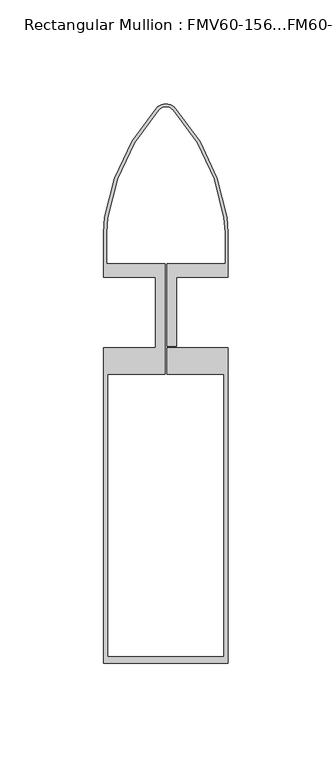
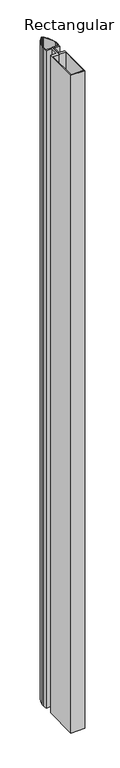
"""IFC4 building model written with IfcOpenShell, lengths in millimetres: member geometry, Rectangular Mullion : FMV60-156...FM60-80."""

from ifc_helpers import new_model, si_unit, frame, origin, place, context, project, spatial, polyline, circle_curve, source, transform, mapped, element, save
from ifc_brep_helpers import plane_surface, cylinder_surface, revolved_surface, advanced_brep


def rectangular_mullion_fmv60_156_fm60_80_34412146(model_context):
    return source(origin(), model_context, "Body", "AdvancedBrep", [
        advanced_brep(
        [(28.0754927, 45.6327241, 0.0), (28.6, 38.5118393, 0.0), (28.6000412, 23.4439081, 0.0), (0.5, 23.4439081, 0.0), (0.5, -16.2, 0.0), (5.0004903, -16.2, 0.0), (5.0004903, 17.0, 0.0), (30.0, 17.0, 0.0), (30.0, 38.5118393, 0.0), (29.4612692, 45.8318697, 0.0), (4.7233463, 98.2488206, 0.0), (0.0, 100.5488206, 0.0), (-4.7233463, 98.2488206, 0.0), (-29.4612692, 45.8318697, 0.0), (-30.0, 38.5118393, 0.0), (-30.0, 17.0, 0.0), (-4.9995097, 17.0, 0.0), (-4.9995097, -17.0, 0.0), (-30.0, -17.0, 0.0), (-30.0, -168.7245121, 0.0), (30.0, -168.7245121, 0.0), (30.0, -17.0, 0.0), (0.5, -17.0, 0.0), (0.5, -29.7200343, 0.0), (28.0, -29.7200343, 0.0), (28.0, -165.7245121, 0.0), (-28.0, -165.7245121, 0.0), (-28.0, -29.7200343, 0.0), (-0.5, -29.7200343, 0.0), (-0.5, 23.4439081, 0.0), (-28.6, 23.4439081, 0.0), (-28.6, 38.5118393, 0.0), (-28.0754927, 45.6327241, 0.0), (-3.6212321, 97.3854872, 0.0), (0.0, 99.1488206, 0.0), (3.6212321, 97.3854872, 0.0), (28.0763537, 45.6269089, -3000.0), (3.6212321, 97.3854872, -3000.0), (0.0, 99.1488206, -3000.0), (-3.6212321, 97.3854872, -3000.0), (-28.0763537, 45.6269089, -3000.0), (-28.6, 38.5118393, -3000.0), (-28.6, 23.4439081, -3000.0), (-0.5, 23.4439081, -3000.0), (-0.5, -29.7200343, -3000.0), (-28.0, -29.7200343, -3000.0), (-28.0, -165.7245121, -3000.0), (28.0, -165.7245121, -3000.0), (28.0, -29.7200343, -3000.0), (0.5, -29.7200343, -3000.0), (0.5, -17.0, -3000.0), (30.0, -17.0, -3000.0), (30.0, -168.7245121, -3000.0), (-30.0, -168.7245121, -3000.0), (-30.0, -17.0, -3000.0), (-4.9995097, -17.0, -3000.0), (-4.9995097, 17.0, -3000.0), (-30.0, 17.0, -3000.0), (-30.0, 38.5118393, -3000.0), (-29.4612692, 45.8318697, -3000.0), (-4.7233463, 98.2488206, -3000.0), (0.0, 100.5488206, -3000.0), (4.7233463, 98.2488206, -3000.0), (29.4612692, 45.8318697, -3000.0), (30.0, 38.5118393, -3000.0), (30.0, 17.0, -3000.0), (5.0004903, 17.0, -3000.0), (5.0004903, -16.2, -3000.0), (0.5, -16.2, -3000.0), (0.5, 23.4439081, -3000.0), (28.6000412, 23.4439081, -3000.0), (28.6000412, 38.5118393, -3000.0)],
        [
            (0, 1, circle_curve(frame((-20.0, 38.5118393, 0.0), z_axis=(0.0, 0.0, -1.0), x_axis=(1.0, 0.0, 0.0)), 48.6)),
            (1, 2),
            (2, 3),
            (3, 4),
            (4, 5),
            (5, 6),
            (6, 7),
            (7, 8),
            (8, 9, circle_curve(frame((-20.0, 38.5118393, 0.0), z_axis=(0.0, 0.0, 1.0), x_axis=(0.989225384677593, 0.14640060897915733, 0.0)), 50.0)),
            (9, 10, circle_curve(frame((-69.4612692, 31.1918088, 0.0), z_axis=(0.0, 0.0, 1.0), x_axis=(0.7418461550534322, 0.6705701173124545, 0.0)), 100.0)),
            (10, 11, circle_curve(frame((0.0, 94.5488206, 0.0), z_axis=(0.0, 0.0, 1.0), x_axis=(2.182106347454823e-12, 1.0, 0.0)), 6.0)),
            (11, 12, circle_curve(frame((0.0, 94.5488206, 0.0), z_axis=(0.0, 0.0, 1.0), x_axis=(-0.787224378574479, 0.6166666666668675, 0.0)), 6.0)),
            (12, 13, circle_curve(frame((69.4612692, 31.1918088, 0.0), z_axis=(0.0, 0.0, 1.0), x_axis=(-0.9892253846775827, 0.14640060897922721, 0.0)), 100.0)),
            (13, 14, circle_curve(frame((20.0, 38.5118393, 0.0), z_axis=(0.0, 0.0, 1.0), x_axis=(-1.0, 0.0, 0.0)), 50.0)),
            (14, 15),
            (15, 16),
            (16, 17),
            (17, 18),
            (18, 19),
            (19, 20),
            (20, 21),
            (21, 22),
            (22, 23),
            (23, 24),
            (24, 25),
            (25, 26),
            (26, 27),
            (27, 28),
            (28, 29),
            (29, 30),
            (30, 31),
            (31, 32, circle_curve(frame((20.0, 38.5118393, 0.0), z_axis=(0.0, 0.0, -1.0), x_axis=(-0.9892253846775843, 0.14640060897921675, 0.0)), 48.6)),
            (32, 33, circle_curve(frame((69.5008187, 31.1798368, 0.0), z_axis=(0.0, 0.0, -1.0), x_axis=(-0.7412956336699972, 0.6711786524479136, 0.0)), 98.6408763)),
            (33, 34, circle_curve(frame((0.0, 94.5488206, 0.0), z_axis=(0.0, 0.0, -1.0), x_axis=(0.0, 1.0, 0.0)), 4.6)),
            (34, 35, circle_curve(frame((0.0, 94.5488206, 0.0), z_axis=(0.0, 0.0, -1.0), x_axis=(0.7872243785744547, 0.6166666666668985, 0.0)), 4.6)),
            (35, 0, circle_curve(frame((-69.5008187, 31.1798368, 0.0), z_axis=(0.0, 0.0, -1.0), x_axis=(0.9892163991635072, 0.14646131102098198, 0.0)), 98.6408763)),
            (36, 37, circle_curve(frame((-69.5008187, 31.1798368, -3000.0), z_axis=(0.0, 0.0, 1.0), x_axis=(0.9892163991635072, 0.14646131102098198, 0.0)), 98.6408763)),
            (37, 38, circle_curve(frame((0.0, 94.5488206, -3000.0), z_axis=(0.0, 0.0, 1.0), x_axis=(0.7872243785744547, 0.6166666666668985, 0.0)), 4.6)),
            (38, 39, circle_curve(frame((0.0, 94.5488206, -3000.0), z_axis=(0.0, 0.0, 1.0), x_axis=(0.0, 1.0, 0.0)), 4.6)),
            (39, 40, circle_curve(frame((69.5008187, 31.1798368, -3000.0), z_axis=(0.0, 0.0, 1.0), x_axis=(-0.7412956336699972, 0.6711786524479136, 0.0)), 98.6408763)),
            (40, 41, circle_curve(frame((20.0, 38.5118393, -3000.0), z_axis=(0.0, 0.0, 1.0), x_axis=(-0.9892253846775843, 0.14640060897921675, 0.0)), 48.6)),
            (41, 42),
            (42, 43),
            (43, 44),
            (44, 45),
            (45, 46),
            (46, 47),
            (47, 48),
            (48, 49),
            (49, 50),
            (50, 51),
            (51, 52),
            (52, 53),
            (53, 54),
            (54, 55),
            (55, 56),
            (56, 57),
            (57, 58),
            (58, 59, circle_curve(frame((20.0, 38.5118393, -3000.0), z_axis=(0.0, 0.0, -1.0), x_axis=(-1.0, 0.0, 0.0)), 50.0)),
            (59, 60, circle_curve(frame((69.4612692, 31.1918088, -3000.0), z_axis=(0.0, 0.0, -1.0), x_axis=(-0.9892253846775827, 0.14640060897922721, 0.0)), 100.0)),
            (60, 61, circle_curve(frame((0.0, 94.5488206, -3000.0), z_axis=(0.0, 0.0, -1.0), x_axis=(-0.787224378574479, 0.6166666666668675, 0.0)), 6.0)),
            (61, 62, circle_curve(frame((0.0, 94.5488206, -3000.0), z_axis=(0.0, 0.0, -1.0), x_axis=(2.182106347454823e-12, 1.0, 0.0)), 6.0)),
            (62, 63, circle_curve(frame((-69.4612692, 31.1918088, -3000.0), z_axis=(0.0, 0.0, -1.0), x_axis=(0.7418461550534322, 0.6705701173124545, 0.0)), 100.0)),
            (63, 64, circle_curve(frame((-20.0, 38.5118393, -3000.0), z_axis=(0.0, 0.0, -1.0), x_axis=(0.989225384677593, 0.14640060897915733, 0.0)), 50.0)),
            (64, 65),
            (65, 66),
            (66, 67),
            (67, 68),
            (68, 69),
            (69, 70),
            (70, 71),
            (71, 36, circle_curve(frame((-20.0, 38.5118393, -3000.0), z_axis=(0.0, 0.0, 1.0), x_axis=(1.0, 0.0, 0.0)), 48.6)),
            (0, 36),
            (71, 1),
            (70, 2),
            (69, 3),
            (68, 4),
            (67, 5),
            (66, 6),
            (65, 7),
            (64, 8),
            (63, 9),
            (62, 10),
            (61, 11),
            (60, 12),
            (59, 13),
            (58, 14),
            (57, 15),
            (56, 16),
            (55, 17),
            (54, 18),
            (53, 19),
            (52, 20),
            (51, 21),
            (50, 22),
            (49, 23),
            (48, 24),
            (47, 25),
            (46, 26),
            (45, 27),
            (44, 28),
            (43, 29),
            (42, 30),
            (41, 31),
            (40, 32),
            (39, 33),
            (38, 34),
            (37, 35),
        ],
        [
            plane_surface(frame((0.0, -171.3708289, 0.0), z_axis=(0.0, 0.0, 1.0), x_axis=(-1.0, 0.0, 0.0))),
            plane_surface(frame((0.0, -171.3708289, -3000.0), z_axis=(0.0, 0.0, -1.0), x_axis=(-1.0, 0.0, 0.0))),
            revolved_surface(polyline([(28.6, 38.5118393, -3000.0), (28.6, 38.5118393, 0.0)]), (-20.0, 38.5118393, 0.0), (0.0, 0.0, -1.0)),
            plane_surface(frame((28.6000412, 38.5118393, 0.0), z_axis=(-1.0, 0.0, 0.0), x_axis=(0.0, 0.0, -1.0))),
            plane_surface(frame((28.6000412, 23.4439081, 0.0), z_axis=(0.0, 1.0, 0.0), x_axis=(0.0, 0.0, -1.0))),
            plane_surface(frame((0.5, 23.4439081, 0.0), z_axis=(-1.0, 0.0, 0.0), x_axis=(0.0, 0.0, -1.0))),
            plane_surface(frame((0.5, -16.2, 0.0), z_axis=(0.0, -1.0, 0.0), x_axis=(0.0, 0.0, -1.0))),
            plane_surface(frame((5.0004903, -16.2, 0.0), z_axis=(1.0, 0.0, 0.0), x_axis=(0.0, 0.0, -1.0))),
            plane_surface(frame((5.0004903, 17.0, 0.0), z_axis=(0.0, -1.0, 0.0), x_axis=(0.0, 0.0, -1.0))),
            plane_surface(frame((30.0, 17.0, 0.0), z_axis=(1.0, 0.0, 0.0), x_axis=(0.0, 0.0, -1.0))),
            cylinder_surface(frame((-20.0, 38.5118393, 0.0), z_axis=(0.0, 0.0, 1.0), x_axis=(0.989225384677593, 0.14640060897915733, 0.0)), 50.0),
            cylinder_surface(frame((-69.4612692, 31.1918088, 0.0), z_axis=(0.0, 0.0, 1.0), x_axis=(0.7418461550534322, 0.6705701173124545, 0.0)), 100.0),
            cylinder_surface(frame((0.0, 94.5488206, 0.0), z_axis=(0.0, 0.0, 1.0), x_axis=(2.182106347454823e-12, 1.0, 0.0)), 6.0),
            cylinder_surface(frame((0.0, 94.5488206, 0.0), z_axis=(0.0, 0.0, 1.0000000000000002), x_axis=(-0.787224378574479, 0.6166666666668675, 0.0)), 6.0),
            cylinder_surface(frame((69.4612692, 31.1918088, 0.0), z_axis=(0.0, 0.0, 1.0), x_axis=(-0.9892253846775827, 0.14640060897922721, 0.0)), 100.0),
            cylinder_surface(frame((20.0, 38.5118393, 0.0), z_axis=(0.0, 0.0, 1.0), x_axis=(-1.0, 0.0, 0.0)), 50.0),
            plane_surface(frame((-30.0, 38.5118393, 0.0), z_axis=(-1.0, 0.0, 0.0), x_axis=(0.0, 0.0, -1.0))),
            plane_surface(frame((-30.0, 17.0, 0.0), z_axis=(0.0, -1.0, 0.0), x_axis=(0.0, 0.0, -1.0))),
            plane_surface(frame((-4.9995097, 17.0, 0.0), z_axis=(-1.0, 0.0, 0.0), x_axis=(0.0, 0.0, -1.0))),
            plane_surface(frame((-4.9995097, -17.0, 0.0), z_axis=(0.0, 1.0, 0.0), x_axis=(0.0, 0.0, -1.0))),
            plane_surface(frame((-30.0, -17.0, 0.0), z_axis=(-1.0, 0.0, 0.0), x_axis=(0.0, 0.0, -1.0))),
            plane_surface(frame((-30.0, -168.7245121, 0.0), z_axis=(0.0, -1.0, 0.0), x_axis=(0.0, 0.0, -1.0))),
            plane_surface(frame((30.0, -168.7245121, 0.0), z_axis=(1.0, 0.0, 0.0), x_axis=(0.0, 0.0, -1.0))),
            plane_surface(frame((30.0, -17.0, 0.0), z_axis=(0.0, 1.0, 0.0), x_axis=(0.0, 0.0, -1.0))),
            plane_surface(frame((0.5, -17.0, 0.0), z_axis=(-1.0, 0.0, 0.0), x_axis=(0.0, 0.0, -1.0))),
            plane_surface(frame((0.5, -29.7200343, 0.0), z_axis=(0.0, -1.0, 0.0), x_axis=(0.0, 0.0, -1.0))),
            plane_surface(frame((28.0, -29.7200343, 0.0), z_axis=(-1.0, 0.0, 0.0), x_axis=(0.0, 0.0, -1.0))),
            plane_surface(frame((28.0, -165.7245121, 0.0), z_axis=(0.0, 1.0, 0.0), x_axis=(0.0, 0.0, -1.0))),
            plane_surface(frame((-28.0, -165.7245121, 0.0), z_axis=(1.0, 0.0, 0.0), x_axis=(0.0, 0.0, -1.0))),
            plane_surface(frame((-28.0, -29.7200343, 0.0), z_axis=(0.0, -1.0, 0.0), x_axis=(0.0, 0.0, -1.0))),
            plane_surface(frame((-0.5, -29.7200343, 0.0), z_axis=(1.0, 0.0, 0.0), x_axis=(0.0, 0.0, -1.0))),
            plane_surface(frame((-0.5, 23.4439081, 0.0), z_axis=(0.0, 1.0, 0.0), x_axis=(0.0, 0.0, -1.0))),
            plane_surface(frame((-28.6, 23.4439081, 0.0), z_axis=(1.0, 0.0, 0.0), x_axis=(0.0, 0.0, -1.0))),
            revolved_surface(polyline([(-28.076353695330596, 45.626908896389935, -3000.0), (-28.076353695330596, 45.626908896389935, 0.0)]), (20.0, 38.5118393, 0.0), (0.0, 0.0, -1.0)),
            revolved_surface(polyline([(-3.6212322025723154, 97.38548723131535, -3000.0), (-3.6212322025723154, 97.38548723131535, 0.0)]), (69.5008187, 31.1798368, 0.0), (0.0, 0.0, -1.0)),
            revolved_surface(polyline([(0.0, 99.1488206, -3000.0), (0.0, 99.1488206, 0.0)]), (0.0, 94.5488206, 0.0), (0.0, 0.0, -1.0)),
            revolved_surface(polyline([(3.6212321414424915, 97.38548726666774, -3000.0), (3.6212321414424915, 97.38548726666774, 0.0)]), (0.0, 94.5488206, 0.0), (0.0, 0.0, -1.0)),
            revolved_surface(polyline([(28.076353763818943, 45.62690886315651, -3000.0), (28.076353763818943, 45.62690886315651, 0.0)]), (-69.5008187, 31.1798368, 0.0), (0.0, 0.0, -1.0)),
        ],
        [
            (0, [[1, 2, 3, 4, 5, 6, 7, 8, 9, 10, 11, 12, 13, 14, 15, 16, 17, 18, 19, 20, 21, 22, 23, 24, 25, 26, 27, 28, 29, 30, 31, 32, 33, 34, 35, 36]]),
            (1, [[37, 38, 39, 40, 41, 42, 43, 44, 45, 46, 47, 48, 49, 50, 51, 52, 53, 54, 55, 56, 57, 58, 59, 60, 61, 62, 63, 64, 65, 66, 67, 68, 69, 70, 71, 72]]),
            (2, [[-1, 73, -72, 74]]),
            (3, [[-2, -74, -71, 75]]),
            (4, [[-3, -75, -70, 76]]),
            (5, [[-4, -76, -69, 77]]),
            (6, [[-5, -77, -68, 78]]),
            (7, [[-6, -78, -67, 79]]),
            (8, [[-7, -79, -66, 80]]),
            (9, [[-8, -80, -65, 81]]),
            (10, [[-9, -81, -64, 82]]),
            (11, [[-10, -82, -63, 83]]),
            (12, [[-11, -83, -62, 84]]),
            (13, [[-12, -84, -61, 85]]),
            (14, [[-13, -85, -60, 86]]),
            (15, [[-14, -86, -59, 87]]),
            (16, [[-15, -87, -58, 88]]),
            (17, [[-16, -88, -57, 89]]),
            (18, [[-17, -89, -56, 90]]),
            (19, [[-18, -90, -55, 91]]),
            (20, [[-19, -91, -54, 92]]),
            (21, [[-20, -92, -53, 93]]),
            (22, [[-21, -93, -52, 94]]),
            (23, [[-22, -94, -51, 95]]),
            (24, [[-23, -95, -50, 96]]),
            (25, [[-24, -96, -49, 97]]),
            (26, [[-25, -97, -48, 98]]),
            (27, [[-26, -98, -47, 99]]),
            (28, [[-27, -99, -46, 100]]),
            (29, [[-28, -100, -45, 101]]),
            (30, [[-29, -101, -44, 102]]),
            (31, [[-30, -102, -43, 103]]),
            (32, [[-31, -103, -42, 104]]),
            (33, [[-32, -104, -41, 105]]),
            (34, [[-33, -105, -40, 106]]),
            (35, [[-34, -106, -39, 107]]),
            (36, [[-35, -107, -38, 108]]),
            (37, [[-36, -108, -37, -73]]),
        ],
    ),
    ])


if __name__ == "__main__":
    model = new_model("IFC4")
    model_context = context("Model", 3, world=origin())
    ifc_project = project(units=[si_unit("LENGTHUNIT", "METRE", prefix="MILLI")], contexts=[model_context])
    site = spatial("IfcSite", under=ifc_project)
    building = spatial("IfcBuilding", under=site)
    placement = place(None, origin())
    rectangular_mullion_fmv60_156_fm60_80_shape = rectangular_mullion_fmv60_156_fm60_80_34412146(model_context)
    element("IfcMember", 1, ObjectType="Rectangular Mullion : FMV60-156...FM60-80", at=placement, inside=building, context=model_context, shape_type="MappedRepresentation", body=[
        mapped(rectangular_mullion_fmv60_156_fm60_80_shape, transform((0.0, 0.0, 0.0), x_axis=(1.0, 0.0, 0.0), y_axis=(0.0, 1.0, 0.0), z_axis=(0.0, 0.0, 1.0))),
    ])
    save(model, "model.ifc")
